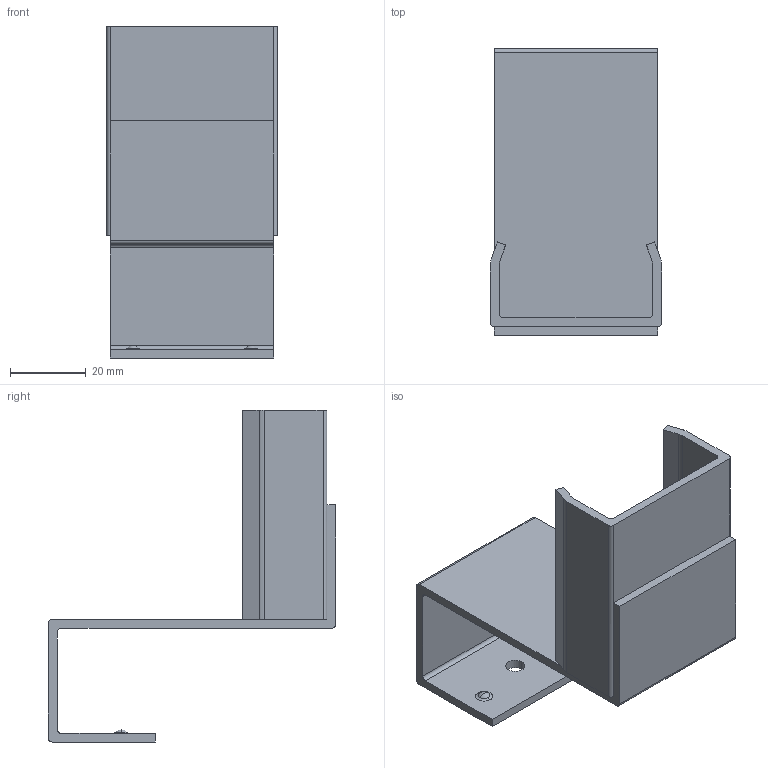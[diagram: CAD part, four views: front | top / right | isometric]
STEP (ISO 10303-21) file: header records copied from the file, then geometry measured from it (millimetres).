
FILE_DESCRIPTION (( 'STEP AP203' ), '1' );
FILE_NAME ('015.200.003.STEP', '2016-10-24T08:39:03', ( '' ), ( '' ), 'SwSTEP 2.0', 'SolidWorks 2016', '' );
FILE_SCHEMA (( 'CONFIG_CONTROL_DESIGN' ));
Length unit declared in the file: millimetre
Products named in the file (1): 015.200.003
Bounding box: 45.1 x 75.7 x 87.5 mm (x, y, z)
Volume: 26805.5 mm3; surface area: 21834.9 mm2
Topology: 1 solids, 1 shells, 61 faces, 171 edges, 108 vertices
Faces by surface type: plane 30, torus 16, cylinder 15
Entity records: 2014 total; most frequent: DIRECTION 359, CARTESIAN_POINT 333, ORIENTED_EDGE 326, EDGE_CURVE 163, AXIS2_PLACEMENT_3D 134, VERTEX_POINT 108, LINE 91, VECTOR 91
